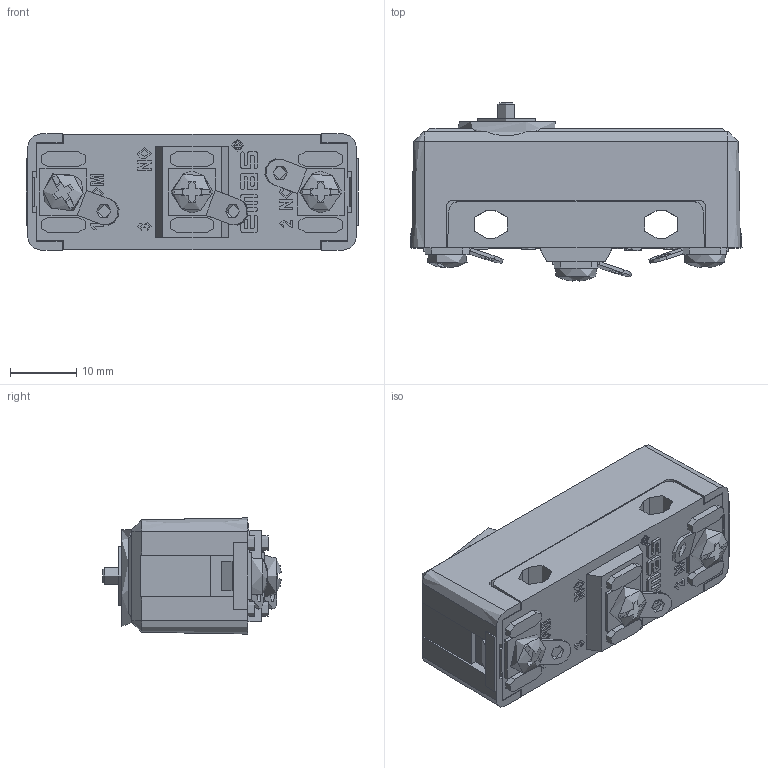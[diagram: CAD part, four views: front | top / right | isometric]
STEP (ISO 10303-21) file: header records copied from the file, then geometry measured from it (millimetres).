
FILE_DESCRIPTION((''),'2; 1');
FILE_NAME('','2026-03-27T16:30:31',(''),(''),'CST STEP Exporter V1.0','Unknown','');
FILE_SCHEMA(('CONFIG_CONTROL_DESIGN'));
Length unit declared in the file: metre
Assembly tree (9 placements, depth 2):
  (unnamed)
    (unnamed)
    (unnamed)
    (unnamed)
    (unnamed)
    (unnamed)
    (unnamed)
    (unnamed)
    (unnamed)
    (unnamed)
Bounding box: 50 x 26.85 x 17.5 mm (x, y, z)
Topology: 0 solids, 44 shells, 446 faces, 1313 edges, 919 vertices
Faces by surface type: plane 291, cylinder 81, extrusion 59, cone 12, sphere 3
Full cylindrical faces by diameter (mm): 1.4 x1, 1.8 x1, 2.2 x3, 2.5 x1, 8.8 x1, 15.2 x1
Entity records: 20467 total; most frequent: CARTESIAN_POINT 4713, ORIENTED_EDGE 2476, DIRECTION 2260, EDGE_CURVE 1361, VECTOR 968, VERTEX_POINT 948, LINE 909, AXIS2_PLACEMENT_3D 646
